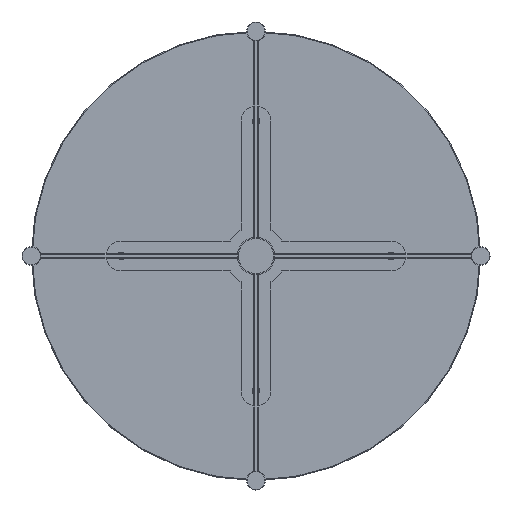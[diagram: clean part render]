
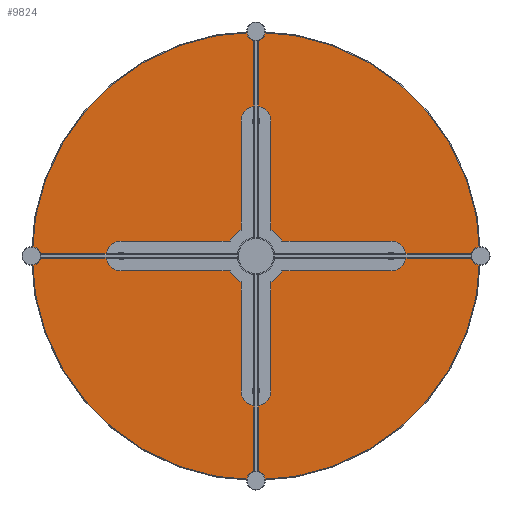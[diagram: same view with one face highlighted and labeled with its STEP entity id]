
A CAD part, front view. The second image highlights one B-rep face of the part: STEP entity #9824.
In plain terms, the highlighted planar face has unit normal (0, -1, 0).
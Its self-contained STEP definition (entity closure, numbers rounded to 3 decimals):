
#9 = CARTESIAN_POINT ( 'NONE',  ( 180., -10., -3. ) ) ;
#59 = CARTESIAN_POINT ( 'NONE',  ( -180., -10., -3. ) ) ;
#155 = DIRECTION ( 'NONE',  ( 0., -1., 0. ) ) ;
#164 = ORIENTED_EDGE ( 'NONE', *, *, #3296, .T. ) ;
#584 = VERTEX_POINT ( 'NONE', #6068 ) ;
#599 = DIRECTION ( 'NONE',  ( 0., 0., -1. ) ) ;
#750 = ORIENTED_EDGE ( 'NONE', *, *, #3860, .F. ) ;
#783 = AXIS2_PLACEMENT_3D ( 'NONE', #2632, #5987, #8687 ) ;
#804 = DIRECTION ( 'NONE',  ( 0., 0., 1. ) ) ;
#903 = EDGE_CURVE ( 'NONE', #2405, #8234, #4790, .T. ) ;
#1323 = AXIS2_PLACEMENT_3D ( 'NONE', #6463, #155, #4619 ) ;
#1700 = FACE_OUTER_BOUND ( 'NONE', #8784, .T. ) ;
#1759 = FACE_BOUND ( 'NONE', #7268, .T. ) ;
#1764 = ORIENTED_EDGE ( 'NONE', *, *, #3816, .F. ) ;
#1941 = CARTESIAN_POINT ( 'NONE',  ( 180., -10., 0. ) ) ;
#2074 = CARTESIAN_POINT ( 'NONE',  ( -180., -10., 0. ) ) ;
#2147 = CARTESIAN_POINT ( 'NONE',  ( 0., -10., 183. ) ) ;
#2405 = VERTEX_POINT ( 'NONE', #3900 ) ;
#2504 = CARTESIAN_POINT ( 'NONE',  ( 0., -10., 0. ) ) ;
#2632 = CARTESIAN_POINT ( 'NONE',  ( 0., -10., 180. ) ) ;
#2833 = ORIENTED_EDGE ( 'NONE', *, *, #10775, .F. ) ;
#2931 = EDGE_LOOP ( 'NONE', ( #7502, #4381 ) ) ;
#3040 = DIRECTION ( 'NONE',  ( 0., -1., 0. ) ) ;
#3142 = VERTEX_POINT ( 'NONE', #7692 ) ;
#3162 = DIRECTION ( 'NONE',  ( 0., -1., 0. ) ) ;
#3252 = CIRCLE ( 'NONE', #5453, 3. ) ;
#3296 = EDGE_CURVE ( 'NONE', #6248, #6736, #11288, .T. ) ;
#3546 = EDGE_LOOP ( 'NONE', ( #3875, #2833 ) ) ;
#3580 = EDGE_CURVE ( 'NONE', #9209, #584, #10356, .T. ) ;
#3689 = DIRECTION ( 'NONE',  ( 0., 0., 1. ) ) ;
#3705 = CIRCLE ( 'NONE', #783, 3. ) ;
#3762 = DIRECTION ( 'NONE',  ( 0., -1., 0. ) ) ;
#3816 = EDGE_CURVE ( 'NONE', #8234, #2405, #3705, .T. ) ;
#3860 = EDGE_CURVE ( 'NONE', #3142, #6052, #4046, .T. ) ;
#3875 = ORIENTED_EDGE ( 'NONE', *, *, #6261, .F. ) ;
#3900 = CARTESIAN_POINT ( 'NONE',  ( 0., -10., 177. ) ) ;
#3985 = CARTESIAN_POINT ( 'NONE',  ( 180., -10., 3. ) ) ;
#4046 = CIRCLE ( 'NONE', #8669, 3. ) ;
#4221 = FACE_BOUND ( 'NONE', #3546, .T. ) ;
#4358 = DIRECTION ( 'NONE',  ( 0., 0., -1. ) ) ;
#4381 = ORIENTED_EDGE ( 'NONE', *, *, #10413, .F. ) ;
#4409 = CARTESIAN_POINT ( 'NONE',  ( 0., -10., -180. ) ) ;
#4619 = DIRECTION ( 'NONE',  ( 0., 0., -1. ) ) ;
#4739 = EDGE_LOOP ( 'NONE', ( #750, #7871 ) ) ;
#4790 = CIRCLE ( 'NONE', #11255, 3. ) ;
#5199 = FACE_BOUND ( 'NONE', #2931, .T. ) ;
#5415 = AXIS2_PLACEMENT_3D ( 'NONE', #10673, #8937, #3689 ) ;
#5453 = AXIS2_PLACEMENT_3D ( 'NONE', #2074, #3040, #8117 ) ;
#5966 = DIRECTION ( 'NONE',  ( 0., 1., 0. ) ) ;
#5987 = DIRECTION ( 'NONE',  ( 0., -1., 0. ) ) ;
#6052 = VERTEX_POINT ( 'NONE', #6920 ) ;
#6068 = CARTESIAN_POINT ( 'NONE',  ( -180., -10., 3. ) ) ;
#6145 = EDGE_CURVE ( 'NONE', #6052, #3142, #7359, .T. ) ;
#6185 = DIRECTION ( 'NONE',  ( 0., 0., -1. ) ) ;
#6248 = VERTEX_POINT ( 'NONE', #9179 ) ;
#6261 = EDGE_CURVE ( 'NONE', #7109, #7975, #11252, .T. ) ;
#6309 = AXIS2_PLACEMENT_3D ( 'NONE', #8782, #10513, #804 ) ;
#6463 = CARTESIAN_POINT ( 'NONE',  ( 180., -10., 0. ) ) ;
#6723 = AXIS2_PLACEMENT_3D ( 'NONE', #2504, #5966, #8718 ) ;
#6736 = VERTEX_POINT ( 'NONE', #9048 ) ;
#6920 = CARTESIAN_POINT ( 'NONE',  ( 0., -10., -177. ) ) ;
#6989 = DIRECTION ( 'NONE',  ( 0., 0., -1. ) ) ;
#7109 = VERTEX_POINT ( 'NONE', #9 ) ;
#7268 = EDGE_LOOP ( 'NONE', ( #8793, #1764 ) ) ;
#7359 = CIRCLE ( 'NONE', #11062, 3. ) ;
#7502 = ORIENTED_EDGE ( 'NONE', *, *, #3580, .F. ) ;
#7692 = CARTESIAN_POINT ( 'NONE',  ( 0., -10., -183. ) ) ;
#7871 = ORIENTED_EDGE ( 'NONE', *, *, #6145, .F. ) ;
#7975 = VERTEX_POINT ( 'NONE', #3985 ) ;
#8032 = CIRCLE ( 'NONE', #9498, 3. ) ;
#8117 = DIRECTION ( 'NONE',  ( 0., 0., -1. ) ) ;
#8178 = CIRCLE ( 'NONE', #5415, 299. ) ;
#8234 = VERTEX_POINT ( 'NONE', #2147 ) ;
#8259 = EDGE_CURVE ( 'NONE', #6736, #6248, #8178, .T. ) ;
#8411 = CARTESIAN_POINT ( 'NONE',  ( -180., -10., 0. ) ) ;
#8669 = AXIS2_PLACEMENT_3D ( 'NONE', #4409, #10420, #4358 ) ;
#8677 = DIRECTION ( 'NONE',  ( 0., -1., 0. ) ) ;
#8687 = DIRECTION ( 'NONE',  ( 0., 0., -1. ) ) ;
#8718 = DIRECTION ( 'NONE',  ( 0., 0., 1. ) ) ;
#8782 = CARTESIAN_POINT ( 'NONE',  ( 0., -10., 0. ) ) ;
#8784 = EDGE_LOOP ( 'NONE', ( #164, #10581 ) ) ;
#8793 = ORIENTED_EDGE ( 'NONE', *, *, #903, .F. ) ;
#8881 = AXIS2_PLACEMENT_3D ( 'NONE', #8411, #3162, #599 ) ;
#8937 = DIRECTION ( 'NONE',  ( 0., -1., 0. ) ) ;
#9048 = CARTESIAN_POINT ( 'NONE',  ( 0., -10., -299. ) ) ;
#9064 = CARTESIAN_POINT ( 'NONE',  ( 0., -10., -180. ) ) ;
#9179 = CARTESIAN_POINT ( 'NONE',  ( 0., -10., 299. ) ) ;
#9209 = VERTEX_POINT ( 'NONE', #59 ) ;
#9498 = AXIS2_PLACEMENT_3D ( 'NONE', #1941, #8677, #6989 ) ;
#9824 = ADVANCED_FACE ( 'NONE', ( #1700, #4221, #1759, #5199, #10398 ), #10343, .F. ) ;
#10343 = PLANE ( 'NONE',  #6723 ) ;
#10356 = CIRCLE ( 'NONE', #8881, 3. ) ;
#10398 = FACE_BOUND ( 'NONE', #4739, .T. ) ;
#10413 = EDGE_CURVE ( 'NONE', #584, #9209, #3252, .T. ) ;
#10420 = DIRECTION ( 'NONE',  ( 0., -1., 0. ) ) ;
#10513 = DIRECTION ( 'NONE',  ( 0., -1., 0. ) ) ;
#10581 = ORIENTED_EDGE ( 'NONE', *, *, #8259, .T. ) ;
#10673 = CARTESIAN_POINT ( 'NONE',  ( 0., -10., 0. ) ) ;
#10685 = CARTESIAN_POINT ( 'NONE',  ( 0., -10., 180. ) ) ;
#10745 = DIRECTION ( 'NONE',  ( 0., 0., -1. ) ) ;
#10775 = EDGE_CURVE ( 'NONE', #7975, #7109, #8032, .T. ) ;
#10911 = DIRECTION ( 'NONE',  ( 0., -1., 0. ) ) ;
#11062 = AXIS2_PLACEMENT_3D ( 'NONE', #9064, #10911, #10745 ) ;
#11252 = CIRCLE ( 'NONE', #1323, 3. ) ;
#11255 = AXIS2_PLACEMENT_3D ( 'NONE', #10685, #3762, #6185 ) ;
#11288 = CIRCLE ( 'NONE', #6309, 299. ) ;
